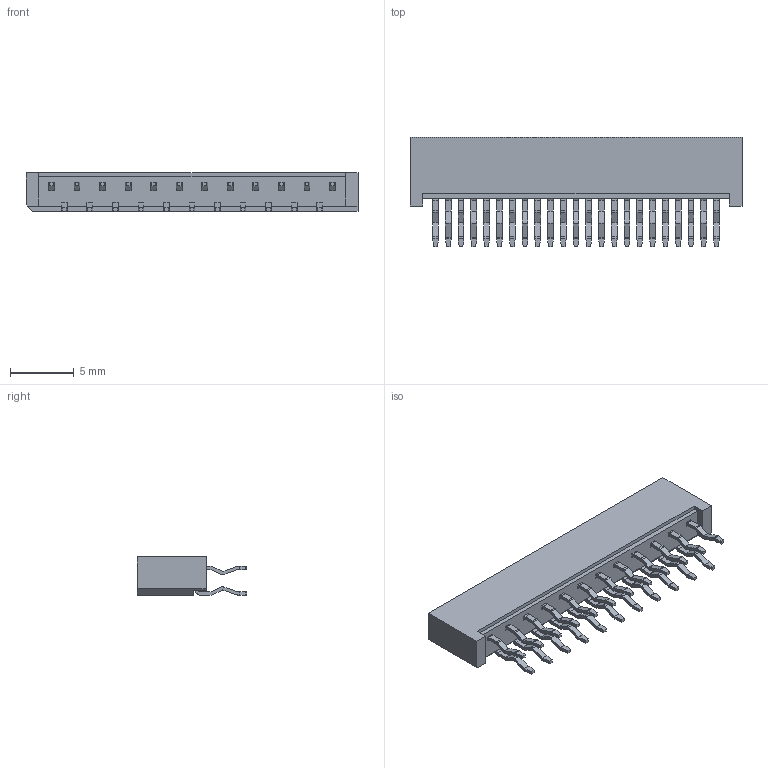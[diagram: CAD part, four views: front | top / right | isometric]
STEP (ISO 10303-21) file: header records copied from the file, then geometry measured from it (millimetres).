
FILE_DESCRIPTION((''),'2;1');
FILE_NAME('S-50657-023XX-XXX','2017-10-30T',('d33379'),(''),'CREO PARAMETRIC BY PTC INC, 2014500','CREO PARAMETRIC BY PTC INC, 2014500','');
FILE_SCHEMA(('CONFIG_CONTROL_DESIGN'));
Length unit declared in the file: millimetre
Products named in the file (1): S-50657-023XX-XXX
Bounding box: 26 x 8.6 x 3 mm (x, y, z)
Volume: 309.4 mm3; surface area: 1018.9 mm2
Topology: 1 solids, 1 shells, 1000 faces, 3015 edges, 2032 vertices
Faces by surface type: plane 677, cylinder 323
Entity records: 34049 total; most frequent: CARTESIAN_POINT 6272, ORIENTED_EDGE 5938, DIRECTION 5705, EDGE_CURVE 2969, VECTOR 2231, LINE 2231, VERTEX_POINT 1986, AXIS2_PLACEMENT_3D 1737
